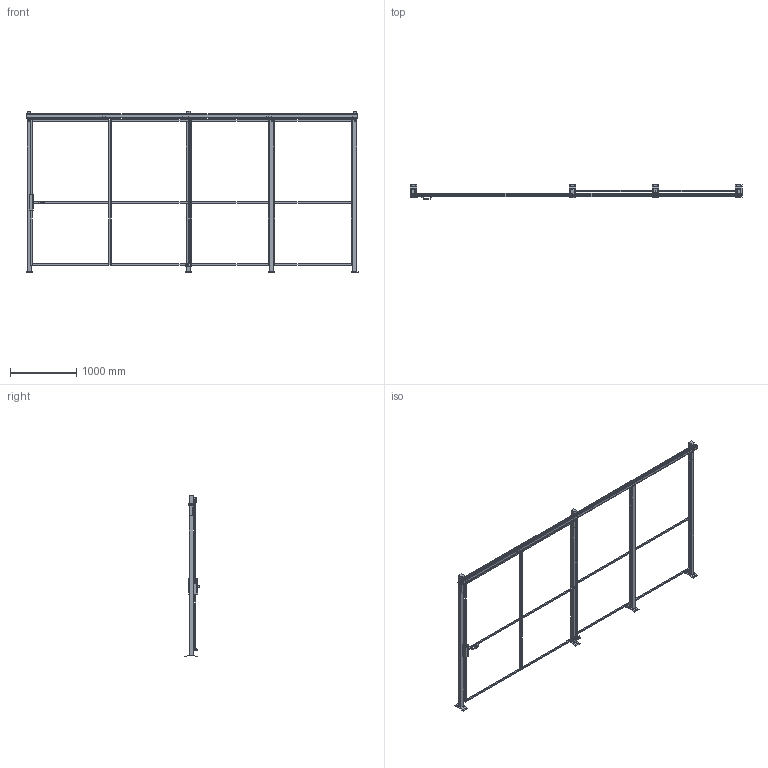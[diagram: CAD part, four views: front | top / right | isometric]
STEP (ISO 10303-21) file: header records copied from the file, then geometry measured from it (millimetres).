
FILE_DESCRIPTION(/* description */ (''),/* implementation_level */ '2;1');
FILE_NAME(/* name */ 'C:\SafeGuarding\ELABORATI\VZOR§POSUVNE_2650x2520_2025-02-13-08-35-05.stp',/* time_stamp */ '2025-02-13T08:35:06+01:00',/* author */ ('admin'),/* organization */ (''),/* preprocessor_version */ 'ST-DEVELOPER v18.1',/* originating_system */ 'AutoCAD Mechanical',/* authorisation */ '');
FILE_SCHEMA (('AUTOMOTIVE_DESIGN { 1 0 10303 214 3 1 1 }'));
Length unit declared in the file: millimetre
Products named in the file (4): Product; R_VFPA.REPE20.12002200; DATI_PORTA; P_VFMA.ME60SDU.2320
Assembly tree (9 placements, depth 2):
  Product
    P_VFMA.ME60SDU.2320  x4
    R_VFPA.REPE20.12002200  x4
    DATI_PORTA
Bounding box: 5030 x 219.95 x 2454 mm (x, y, z)
Volume: 57462352 mm3; surface area: 8176162.5 mm2
Topology: 51 solids, 62 shells, 701 faces, 2338 edges, 2364 vertices
Faces by surface type: plane 651, cylinder 48, sphere 2
Full cylindrical faces by diameter (mm): 11 x16, 12 x2, 15 x4, 40 x4
Entity records: 15409 total; most frequent: CARTESIAN_POINT 3177, DIRECTION 2342, ORIENTED_EDGE 2334, EDGE_CURVE 1216, LINE 1160, VECTOR 1160, VERTEX_POINT 852, AXIS2_PLACEMENT_3D 591
